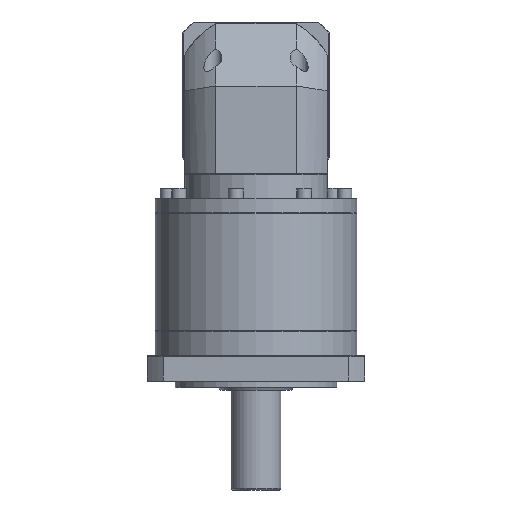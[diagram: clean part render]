
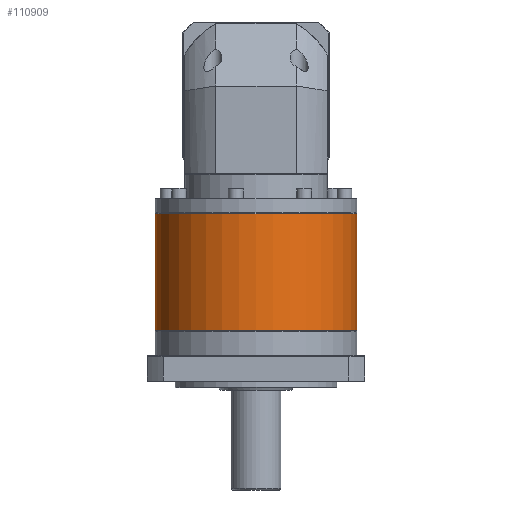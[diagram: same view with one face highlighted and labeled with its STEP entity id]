
A CAD part, front view. The second image highlights one B-rep face of the part: STEP entity #110909.
In plain terms, the highlighted cylindrical face has radius 81 mm (diameter 162 mm), a partial arc.
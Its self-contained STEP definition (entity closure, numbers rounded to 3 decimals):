
#4275 = AXIS2_PLACEMENT_3D ( 'NONE', #119553, #131704, #97150 ) ;
#7331 = CYLINDRICAL_SURFACE ( 'NONE', #37394, 81. ) ;
#12080 = VERTEX_POINT ( 'NONE', #120088 ) ;
#14489 = CIRCLE ( 'NONE', #89516, 81. ) ;
#15157 = DIRECTION ( 'NONE',  ( -1., 0., 0. ) ) ;
#18123 = DIRECTION ( 'NONE',  ( 0., 0., -1. ) ) ;
#19463 = EDGE_CURVE ( 'NONE', #12080, #110770, #14489, .T. ) ;
#37394 = AXIS2_PLACEMENT_3D ( 'NONE', #103577, #59863, #15157 ) ;
#39188 = VECTOR ( 'NONE', #80309, 1000. ) ;
#41450 = DIRECTION ( 'NONE',  ( 0., 0., -1. ) ) ;
#49499 = CIRCLE ( 'NONE', #4275, 81. ) ;
#52005 = LINE ( 'NONE', #97687, #104085 ) ;
#54425 = ORIENTED_EDGE ( 'NONE', *, *, #114530, .F. ) ;
#55823 = EDGE_LOOP ( 'NONE', ( #54425, #56397, #71583, #82901 ) ) ;
#56397 = ORIENTED_EDGE ( 'NONE', *, *, #19463, .T. ) ;
#59863 = DIRECTION ( 'NONE',  ( 0., 0., -1. ) ) ;
#70992 = CARTESIAN_POINT ( 'NONE',  ( -173.323, 8.449, 336.776 ) ) ;
#71583 = ORIENTED_EDGE ( 'NONE', *, *, #92836, .T. ) ;
#77521 = EDGE_CURVE ( 'NONE', #94495, #125850, #49499, .T. ) ;
#80309 = DIRECTION ( 'NONE',  ( 0., 0., -1. ) ) ;
#80781 = CARTESIAN_POINT ( 'NONE',  ( -173.323, 8.449, 337.276 ) ) ;
#82901 = ORIENTED_EDGE ( 'NONE', *, *, #77521, .T. ) ;
#86566 = CARTESIAN_POINT ( 'NONE',  ( -92.323, 8.449, 336.776 ) ) ;
#89516 = AXIS2_PLACEMENT_3D ( 'NONE', #86566, #18123, #95811 ) ;
#92836 = EDGE_CURVE ( 'NONE', #110770, #94495, #127806, .T. ) ;
#94495 = VERTEX_POINT ( 'NONE', #97968 ) ;
#95811 = DIRECTION ( 'NONE',  ( -1., 0., 0. ) ) ;
#97150 = DIRECTION ( 'NONE',  ( -1., 0., 0. ) ) ;
#97687 = CARTESIAN_POINT ( 'NONE',  ( -11.323, 8.449, 337.276 ) ) ;
#97968 = CARTESIAN_POINT ( 'NONE',  ( -173.323, 8.449, 243.276 ) ) ;
#103577 = CARTESIAN_POINT ( 'NONE',  ( -92.323, 8.449, 337.276 ) ) ;
#104085 = VECTOR ( 'NONE', #41450, 1000. ) ;
#110770 = VERTEX_POINT ( 'NONE', #70992 ) ;
#110909 = ADVANCED_FACE ( 'NONE', ( #142846 ), #7331, .T. ) ;
#114530 = EDGE_CURVE ( 'NONE', #12080, #125850, #52005, .T. ) ;
#119553 = CARTESIAN_POINT ( 'NONE',  ( -92.323, 8.449, 243.276 ) ) ;
#120088 = CARTESIAN_POINT ( 'NONE',  ( -11.323, 8.449, 336.776 ) ) ;
#125850 = VERTEX_POINT ( 'NONE', #138640 ) ;
#127806 = LINE ( 'NONE', #80781, #39188 ) ;
#131704 = DIRECTION ( 'NONE',  ( 0., 0., 1. ) ) ;
#138640 = CARTESIAN_POINT ( 'NONE',  ( -11.323, 8.449, 243.276 ) ) ;
#142846 = FACE_OUTER_BOUND ( 'NONE', #55823, .T. ) ;
